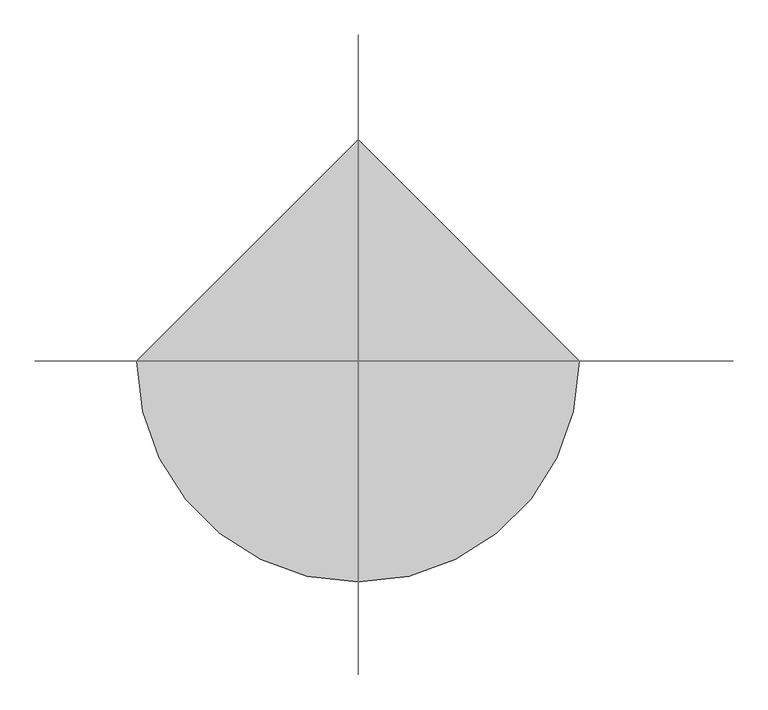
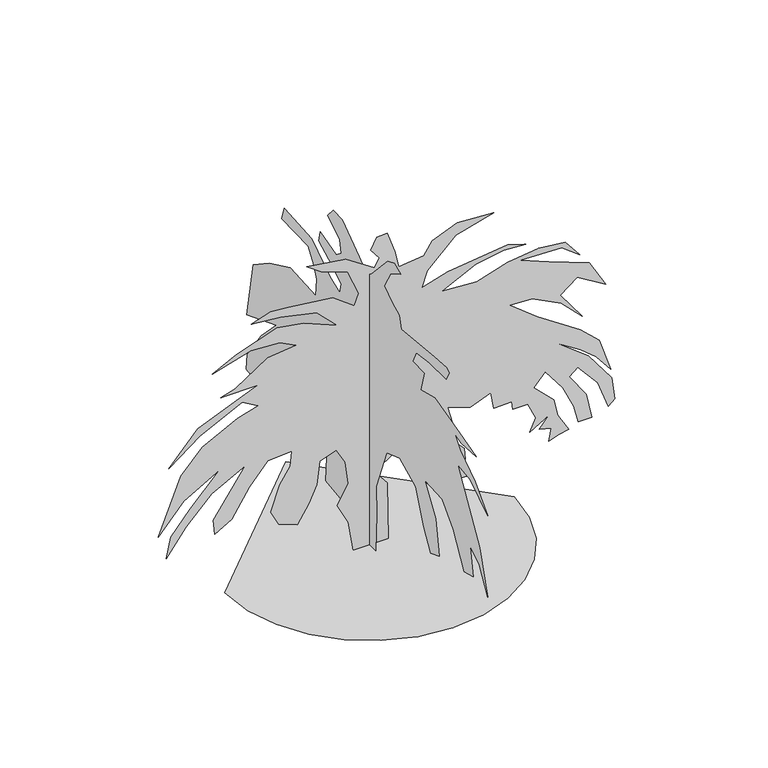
"""IFC4 building model written with IfcOpenShell, lengths in millimetres: geographic element geometry, RPC Plante - Tropical : Fougère japonaise - 0.8 mètres."""

import ifcopenshell
import ifcopenshell.guid

model = None  # the IFC model being written
_history = None  # IfcOwnerHistory: only IFC2X3 demands one
_inside = {}  # id of a spatial element -> (the spatial element, [elements in it])
_under = {}  # id of a project, library or spatial element -> (it, [spatial elements below it])
_declared = {}  # id of a project -> (the project, [libraries it declares])
_typed = {}  # id of a type object -> (the type object, [elements of that type])
_made_of = {}  # id of a material, layer set ... -> (it, [elements and type objects made of it])


def new_model(schema):
    """Start an empty IFC model of exactly this schema.

    Asked for "IFC4X3", IfcOpenShell would pick the latest addendum, in which some entities
    have other attributes; the version numbers below select the first issue.
    IFC2X3 requires an IfcOwnerHistory on every rooted entity: one is made here for all.
    """
    global model, _history
    if schema == "IFC4X3":
        model = ifcopenshell.file(schema_version=(4, 3, 0, 0))
    else:
        model = ifcopenshell.file(schema=schema)
    _inside.clear()
    _under.clear()
    _declared.clear()
    _typed.clear()
    _made_of.clear()
    _history = None
    if model.schema == "IFC2X3":
        org = make("IfcOrganization", Name="unknown")
        user = make(
            "IfcPersonAndOrganization",
            ThePerson=make("IfcPerson", FamilyName="unknown"),
            TheOrganization=org,
        )
        app = make(
            "IfcApplication",
            ApplicationDeveloper=org,
            Version="unknown",
            ApplicationFullName="unknown",
            ApplicationIdentifier="unknown",
        )
        _history = make(
            "IfcOwnerHistory",
            OwningUser=user,
            OwningApplication=app,
            ChangeAction="ADDED",
            CreationDate=0,
        )
    return model


def make(cls, **values):
    """One entity of the class cls with the attributes given. An attribute that is None is left unset."""
    return model.create_entity(
        cls, **{name: value for name, value in values.items() if value is not None}
    )


def rooted(cls, **values):
    """An entity with a GlobalId (a new one), such as an element, a storey or a relation."""
    return make(cls, GlobalId=ifcopenshell.guid.new(), OwnerHistory=_history, **values)


def si_unit(unit_type, name, prefix=None):
    """IfcSIUnit, for example si_unit("LENGTHUNIT", "METRE", prefix="MILLI")."""
    return make("IfcSIUnit", UnitType=unit_type, Prefix=prefix, Name=name)


def assignment(units):
    """IfcUnitAssignment: the units of a project."""
    return None if units is None else make("IfcUnitAssignment", Units=units)


def point(xyz):
    """IfcCartesianPoint."""
    return None if xyz is None else make("IfcCartesianPoint", Coordinates=xyz)


def direction(xyz):
    """IfcDirection."""
    return None if xyz is None else make("IfcDirection", DirectionRatios=xyz)


def frame(location, z_axis=None, x_axis=None):
    """IfcAxis2Placement3D, a coordinate frame: its origin and axes. An axis left out is left unset."""
    return make(
        "IfcAxis2Placement3D",
        Location=point(location),
        Axis=direction(z_axis),
        RefDirection=direction(x_axis),
    )


def origin():
    """The frame at (0, 0, 0) with its axes left unset."""
    return frame((0.0, 0.0, 0.0))


def place(relative_to, where):
    """IfcLocalPlacement: puts the frame where relative to a parent placement (None: the world)."""
    return make(
        "IfcLocalPlacement", PlacementRelTo=relative_to, RelativePlacement=where
    )


def context(
    kind, dimensions, precision=None, world=None, true_north=None, identifier=None
):
    """IfcGeometricRepresentationContext, for example the 3D "Model" context."""
    return make(
        "IfcGeometricRepresentationContext",
        ContextIdentifier=identifier,
        ContextType=kind,
        CoordinateSpaceDimension=dimensions,
        Precision=precision,
        WorldCoordinateSystem=world,
        TrueNorth=true_north,
    )


def project(units=None, contexts=None):
    """IfcProject with its units and contexts."""
    return rooted(
        "IfcProject",
        Name="project",
        RepresentationContexts=contexts,
        UnitsInContext=assignment(units),
    )


def spatial(cls, under=None, at=None, **own):
    """A site, building, storey or space (cls), placed at a placement, below another one or the project."""
    s = rooted(cls, ObjectPlacement=at, **own)
    if under is not None:
        _under.setdefault(under.id(), (under, []))[1].append(s)
    return s


def point_list(points):
    """IfcCartesianPointList2D or 3D."""
    cls = (
        "IfcCartesianPointList2D" if len(points[0]) == 2 else "IfcCartesianPointList3D"
    )
    return make(cls, CoordList=points)


def triangles(points, corners, closed=None, point_numbers=None):
    """IfcTriangulatedFaceSet: each triangle names its three corners, points numbered from 1."""
    return make(
        "IfcTriangulatedFaceSet",
        Coordinates=point_list(points),
        Closed=closed,
        CoordIndex=corners,
        PnIndex=point_numbers,
    )


def shape(context_of_items, identifier, shape_type, items):
    """IfcShapeRepresentation: the items that make up one representation, for example the "Body"."""
    return make(
        "IfcShapeRepresentation",
        ContextOfItems=context_of_items,
        RepresentationIdentifier=identifier,
        RepresentationType=shape_type,
        Items=items,
    )


def source(mapping_origin, context_of_items, identifier, shape_type, items):
    """IfcRepresentationMap: a shape defined once, which mapped items show again and again."""
    return make(
        "IfcRepresentationMap",
        MappingOrigin=mapping_origin,
        MappedRepresentation=shape(context_of_items, identifier, shape_type, items),
    )


def transform(
    local_origin,
    x_axis=None,
    y_axis=None,
    z_axis=None,
    scale=None,
    scale2=None,
    scale3=None,
    uniform=True,
):
    """IfcCartesianTransformationOperator3D, or its non-uniform kind. x_axis, y_axis, z_axis: its Axis1, 2, 3."""
    if uniform:
        return make(
            "IfcCartesianTransformationOperator3D",
            Axis1=direction(x_axis),
            Axis2=direction(y_axis),
            LocalOrigin=point(local_origin),
            Scale=scale,
            Axis3=direction(z_axis),
        )
    return make(
        "IfcCartesianTransformationOperator3DnonUniform",
        Axis1=direction(x_axis),
        Axis2=direction(y_axis),
        LocalOrigin=point(local_origin),
        Scale=scale,
        Axis3=direction(z_axis),
        Scale2=scale2,
        Scale3=scale3,
    )


def mapped(mapping_source, mapping_target):
    """IfcMappedItem: shows the shape of a source again, moved by a transform."""
    return make(
        "IfcMappedItem", MappingSource=mapping_source, MappingTarget=mapping_target
    )


def made_of(thing, what):
    """Note that an element or type object is made of a material, layer set ...; save() writes the relation."""
    if what is not None:
        _made_of.setdefault(what.id(), (what, []))[1].append(thing)
    return thing


def element(
    cls,
    number,
    at=None,
    inside=None,
    cuts=None,
    type_object=None,
    material=None,
    context=None,
    identifier="Body",
    shape_type=None,
    held_by="IfcProductDefinitionShape",
    body=None,
    shapes=None,
    **own,
):
    """One element of the class cls, such as IfcWall. Its Tag is "e" and its number.

    at: its placement. inside: the storey or other place that contains it. cuts: it is an
    opening in that element (IfcRelVoidsElement). A single representation is given by context,
    identifier, shape_type and body (its items); several are given by shapes. held_by: the class
    of the entity that holds the representations. save() writes the other relations.
    """
    e = rooted(cls, Tag="e%d" % number, ObjectPlacement=at, **own)
    if body is not None:
        shapes = [shape(context, identifier, shape_type, body)]
    if shapes is not None:
        e.Representation = make(held_by, Representations=shapes)
    if inside is not None:
        _inside.setdefault(inside.id(), (inside, []))[1].append(e)
    if cuts is not None:
        rooted(
            "IfcRelVoidsElement", RelatingBuildingElement=cuts, RelatedOpeningElement=e
        )
    if type_object is not None:
        _typed.setdefault(type_object.id(), (type_object, []))[1].append(e)
    return made_of(e, material)


def aggregate(whole, parts):
    """IfcRelAggregates: a whole, such as a stair, and the parts it consists of."""
    return rooted("IfcRelAggregates", RelatingObject=whole, RelatedObjects=parts)


def save(model, path):
    """Write the relations noted so far, then the file.

    IfcRelAggregates (storeys below a building ...), IfcRelContainedInSpatialStructure (elements
    in a storey), IfcRelDefinesByType, IfcRelAssociatesMaterial and IfcRelDeclares: one each for
    every whole, place, type object, material and project.
    """
    for whole, parts in _under.values():
        aggregate(whole, parts)
    for where, things in _inside.values():
        rooted(
            "IfcRelContainedInSpatialStructure",
            RelatedElements=things,
            RelatingStructure=where,
        )
    for kind, things in _typed.values():
        rooted("IfcRelDefinesByType", RelatedObjects=things, RelatingType=kind)
    for what, things in _made_of.values():
        rooted("IfcRelAssociatesMaterial", RelatedObjects=things, RelatingMaterial=what)
    for by, libraries in _declared.values():
        rooted("IfcRelDeclares", RelatingContext=by, RelatedDefinitions=libraries)
    model.write(path)


def geographic_element_89f61e38(model_context):
    return source(origin(), model_context, "Body", "Tessellation", [
        triangles([(-356.9816259, 0.0, 2.46e-05), (-347.538961, -81.8417886, 2.46e-05), (-320.6483422, -157.0003733, 2.46e-05), (-278.4590569, -223.3224515, 2.46e-05), (-223.1257884, -278.6557201, 2.46e-05), (-156.8037101, -320.8450235, 2.46e-05), (-81.6451164, -347.7356423, 2.46e-05), (0.1966867, -357.1783072, 2.46e-05), (82.0384609, -347.7356423, 2.46e-05), (157.1970364, -320.8450235, 2.46e-05), (223.5191146, -278.6557201, 2.46e-05), (278.8523832, -223.3224515, 2.46e-05), (321.0417048, -157.0003733, 2.46e-05), (347.9323236, -81.8417886, 2.46e-05), (357.3749886, 3.12e-05, 2.46e-05), (0.1966242, 357.1783072, 2.46e-05), (-39.591288, 2.4e-05, 3.8e-06), (-52.3886082, 2.53e-05, 77.2092589), (-79.4701856, 2.33e-05, 129.9044073), (-51.8286088, 1.92e-05, 179.0246285), (-59.6237998, 1.61e-05, 237.2005651), (-81.0099172, 1.47e-05, 275.3224025), (-121.8640096, 1.74e-05, 260.7322683), (-129.4650627, 2.12e-05, 202.3781994), (-150.0026445, 2.47e-05, 159.3985009), (-177.3082362, 2.85e-05, 114.8257492), (-224.1652416, 2.95e-05, 132.5502668), (-243.9444304, 2.81e-05, 171.1790318), (-221.0799103, 2.33e-05, 234.4691003), (-195.0511394, 1.98e-05, 273.6130591), (-191.2119478, 1.74e-05, 311.3276902), (-250.2614867, 2.02e-05, 307.4210246), (-296.6350369, 2.54e-05, 254.2280142), (-339.5123071, 3.14e-05, 185.9592888), (-381.4722822, 3.47e-05, 161.1515734), (-385.2696158, 3.25e-05, 199.7619347), (-305.7070304, 2.23e-05, 313.25835), (-389.2322737, 2.86e-05, 269.5890678), (-451.6135314, 3.51e-05, 205.2877965), (-501.5068159, 4.12e-05, 139.8979924), (-490.5788492, 3.76e-05, 191.9816683), (-441.6242065, 3.21e-05, 249.0544201), (-368.8616057, 2.43e-05, 325.6103577), (-458.3148665, 3.13e-05, 274.3943886), (-521.6481374, 3.83e-05, 202.3696607), (-465.4295122, 2.75e-05, 342.7516442), (-412.306919, 2.18e-05, 399.0182679), (-325.1523188, 1.53e-05, 444.1942168), (-273.6057376, 1.22e-05, 459.1648873), (-314.0723265, 1.26e-05, 482.4155394), (-418.6162359, 2.03e-05, 430.012924), (-495.2054927, 2.71e-05, 372.3782879), (-423.1042251, 1.92e-05, 451.5675676), (-315.4003341, 1.18e-05, 496.7035117), (-275.4804052, 9.1e-06, 512.7808371), (-366.2136206, 1.31e-05, 512.5835017), (-331.2056557, 1.09e-05, 523.2341598), (-250.2614867, 4.2e-06, 575.8901027), (-180.8079499, 7e-07, 584.7194329), (-221.0799103, 1.2e-06, 605.0713883), (-292.4937199, 4.1e-06, 609.4207232), (-387.4135983, 9.9e-06, 581.7274281), (-328.4856545, 5.5e-06, 612.0154049), (-227.295374, -1e-06, 646.7967121), (-161.5869029, -3.2e-06, 635.7193359), (-78.621382, -4.8e-06, 600.674055), (-129.4533356, -5.6e-06, 651.5887161), (-219.3260566, -2.8e-06, 670.7326784), (-291.1150432, -1e-07, 678.0232944), (-243.6241556, -3.1e-06, 694.5326792), (-199.2876722, -4.8e-06, 690.5139565), (-89.7989701, -8.8e-06, 676.7513517), (-37.2379591, -8.7e-06, 637.1700468), (-25.5654385, -1.1e-05, 666.3513325), (-53.2067405, -1.36e-05, 730.9165775), (-118.8594782, -1.21e-05, 754.0578976), (-153.9631858, -1.22e-05, 780.1592113), (-58.1566019, -1.55e-05, 766.6525503), (12.3701786, -1.58e-05, 718.8793036), (24.5030987, -1.76e-05, 741.3032982), (3.6158409, -1.84e-05, 768.4872494), (18.7047597, -2.07e-05, 796.1618683), (43.7640938, -2.19e-05, 798.4898512), (62.816342, -1.95e-05, 744.3539114), (72.129132, -1.74e-05, 701.4126371), (134.0245409, -2.04e-05, 707.8552671), (155.3583768, -2.33e-05, 739.3059637), (216.6393747, -2.75e-05, 765.5672241), (307.1003683, -3.11e-05, 759.7325512), (213.1465828, -2.54e-05, 733.5272467), (143.1669335, -1.83e-05, 665.9780268), (130.1258781, -1.53e-05, 625.1620588), (193.29407, -1.93e-05, 645.9246723), (342.1190157, -2.69e-05, 663.433996), (386.0096143, -2.8e-05, 650.2686659), (331.6310294, -2.58e-05, 653.215361), (262.3572055, -2.2e-05, 640.2313425), (179.4618111, -1.6e-05, 599.1567421), (265.035058, -1.94e-05, 594.3860667), (342.0896934, -2.42e-05, 617.5967503), (417.9909471, -2.81e-05, 628.4153486), (483.3268573, -3.05e-05, 620.5620489), (520.1241752, -2.95e-05, 575.8901027), (475.7348788, -2.95e-05, 609.4687217), (372.9456588, -2.52e-05, 612.3860945), (441.3349073, -2.65e-05, 584.6447645), (542.8041498, -2.87e-05, 546.4048021), (584.2227699, -2.63e-05, 476.0742113), (513.9028253, -2.58e-05, 519.0714778), (472.0308898, -2.2e-05, 486.8048427), (525.9615005, -2e-05, 412.4742416), (473.4335295, -2.08e-05, 465.0022127), (402.3962957, -1.99e-05, 501.5674953), (346.6470097, -1.76e-05, 504.9195073), (415.0709218, -1.74e-05, 450.4102255), (520.5801793, -1.78e-05, 379.9196154), (568.2414416, -1.72e-05, 335.1356847), (596.0814211, -1.33e-05, 249.2213612), (560.7561427, -1.45e-05, 294.909034), (522.6121774, -1.47e-05, 326.2076686), (462.342891, -1.43e-05, 363.9543108), (540.550799, -1.42e-05, 304.5037063), (599.2467439, -1.21e-05, 226.7565805), (605.6067481, -9e-06, 169.6256927), (590.1587448, -7.5e-06, 155.6795782), (563.8974481, -1.05e-05, 225.714711), (514.2895022, -1.18e-05, 284.0770462), (493.1588516, -9.9e-06, 266.7677284), (536.2361641, -8.1e-06, 205.2771322), (549.3054608, -4.8e-06, 141.0889262), (516.425491, -3.3e-06, 140.2646579), (505.3241701, -5.5e-06, 185.108614), (477.6415575, -7.8e-06, 243.2032329), (434.3535748, -9.2e-06, 299.3437015), (405.9722766, -6.1e-06, 268.3197412), (455.9268946, -5.4e-06, 219.8784575), (465.4788915, -3.2e-06, 174.9152863), (492.2202098, -1.7e-06, 130.1460077), (468.8415496, -3e-07, 124.1884135), (442.7215596, 1.3e-06, 116.1070845), (449.5455617, -8e-07, 146.8782531), (419.662938, 0.0, 155.0435705), (444.2522438, -2.8e-06, 184.860882), (396.2229444, 1e-06, 156.0027779), (410.9322573, -1.6e-06, 188.0872839), (391.7616251, -3.2e-06, 229.804832), (353.6443296, -1.6e-06, 230.0109786), (351.7750033, -2.7e-06, 250.1848198), (307.1003683, -7e-07, 249.0597613), (300.2817075, -2.9e-06, 291.6023862), (248.7385418, 5e-07, 272.405066), (193.29407, 1.9e-06, 289.9143715), (210.8028487, 4.9e-06, 225.714711), (209.5596469, 6.7e-06, 196.5163297), (234.147899, 7.2e-06, 170.2702392), (237.0660348, 8.8e-06, 141.0889262), (219.1519212, 1.04e-05, 127.6382756), (249.9017521, 1.1e-05, 94.9585752), (191.3132679, 1.34e-05, 97.4711035), (201.263133, 1.05e-05, 139.9955973), (173.9058276, 1.05e-05, 159.8089046), (182.4415529, 8.6e-06, 185.1459482), (114.684288, 1.2e-05, 178.0643492), (99.9141775, 1.12e-05, 202.3696607), (152.4405135, 7.1e-06, 231.5509645), (87.6747175, 9.8e-06, 234.8944377), (12.4554318, 1.6e-05, 186.0566121), (44.4696966, 1.69e-05, 146.9251888), (47.3878233, 1.91e-05, 0.0), (0.1988968, 28.0250381, 3.7e-06), (0.1989024, 23.3153101, 131.4809371), (0.1989043, 63.1703357, 135.2526637), (0.1989031, 125.3580096, 45.104755), (0.1989061, 186.8720783, 53.6724779), (0.1989088, 182.1083611, 118.7774792), (0.1989112, 144.4259864, 212.5160617), (0.1989072, 143.3849253, 265.1541278), (0.1989091, 175.7563505, 275.9837175), (0.1989147, 237.6858916, 199.7619347), (0.198915, 302.7357001, 140.1214617), (0.1989165, 331.3730146, 147.3601187), (0.1989186, 325.3463476, 199.5424713), (0.1989213, 363.9222997, 223.1101825), (0.1989223, 429.8262348, 180.7067569), (0.1989222, 475.8741872, 131.4809371), (0.1989247, 526.6901261, 139.4206596), (0.1989263, 521.9248283, 180.7067569), (0.1989212, 463.1728912, 264.866936), (0.1989213, 397.7889462, 332.7090159), (0.1989246, 523.5141572, 283.9223863), (0.1989299, 495.7835097, 430.9862294), (0.1989289, 428.236906, 476.0608764), (0.1989268, 339.3143177, 517.3488358), (0.1989217, 228.4952462, 512.2821756), (0.1989235, 224.9824519, 557.0447777), (0.1989254, 238.2328241, 586.9834299), (0.198928, 261.7722666, 621.3780602), (0.198933, 375.8342906, 623.7380178), (0.198934, 364.7196347, 657.0846743), (0.1989285, 247.1213622, 649.612674), (0.1989229, 169.3534347, 598.4660866), (0.1989203, 125.6708085, 581.7007582), (0.1989213, 121.2033486, 608.4554114), (0.1989249, 174.1686204, 639.6180079), (0.1989278, 217.0427113, 661.8500084), (0.1989224, 209.1029888, 690.4313307), (0.1989186, 140.9505263, 671.9353666), (0.1989184, 120.1790834, 688.8446543), (0.1989201, 126.4332074, 719.3166315), (0.1989238, 178.9323558, 752.3619255), (0.1989239, 155.1134427, 779.3565714), (0.1989222, 117.0030872, 777.7672062), (0.1989167, 43.7690217, 725.5806387), (0.1989142, 11.282335, 699.1806513), (0.1989139, -10.6222293, 714.4366241), (0.1989141, -78.3121894, 787.2951857), (0.1989134, -106.8948288, 799.9992067), (0.1989117, -133.8897381, 787.2951857), (0.1989124, -91.4905729, 762.6498877), (0.1989115, -63.82447, 714.9192982), (0.198909, -97.1412363, 690.3886734), (0.1989071, -127.8788042, 676.3806622), (0.1989116, -136.2243976, 645.8900087), (0.1988998, -278.3917282, 660.2606432), (0.1988976, -330.7943436, 663.4366848), (0.1988968, -341.9089994, 655.4979979), (0.1989026, -329.2050147, 631.6793936), (0.1989057, -255.7989394, 630.9247158), (0.1989078, -201.4115251, 623.4394169), (0.1989071, -185.4035451, 591.3727332), (0.1989049, -234.4786928, 590.4820899), (0.1989033, -219.4389858, 537.8608106), (0.1989013, -279.9783864, 553.8714612), (0.1988956, -384.8262926, 526.9594774), (0.1988915, -456.2395572, 506.2314912), (0.1988942, -394.0155936, 503.9995053), (0.1988957, -365.7943148, 511.6901696), (0.1988935, -388.4636069, 482.6261733), (0.1988888, -452.284893, 439.6635704), (0.198884, -507.0528437, 383.9622828), (0.1988894, -430.8768974, 431.8128868), (0.198892, -378.3489627, 438.6928811), (0.1988872, -418.3222495, 368.7036212), (0.1988809, -472.1195472, 279.1570521), (0.1988809, -505.8634904, 170.2702392), (0.198879, -470.530182, 233.1083004), (0.1988817, -430.9435721, 256.6434736), (0.1988781, -444.5382365, 186.5443548), (0.1988855, -406.6475987, 176.1064927), (0.198885, -359.3756295, 258.5152162), (0.1988892, -311.2476806, 308.3676965), (0.1988927, -237.3971011, 313.25835), (0.1988874, -284.7437206, 241.0480229), (0.1988892, -298.5170441, 151.7734485), (0.1988901, -261.8053315, 136.5182659), (0.1988937, -232.8570984, 188.3064747), (0.1988926, -197.5672648, 272.0370652), (0.198897, -130.1718691, 304.5676922), (0.1988986, -73.5660583, 284.6663815), (0.1989018, -28.8695723, 170.457437), (0.1988986, -31.953834, 99.3204365), (0.1988944, -26.9829074, 2.55e-05)], [[15, 16, 1], [14, 15, 1], [14, 1, 2], [13, 14, 2], [13, 2, 3], [13, 3, 4], [12, 13, 4], [11, 12, 4], [11, 4, 5], [11, 5, 6], [11, 6, 7], [11, 7, 8], [11, 8, 9], [11, 9, 10], [110, 111, 112], [51, 52, 53], [61, 62, 63], [102, 103, 104], [94, 95, 96], [55, 56, 57], [88, 89, 90], [44, 45, 46], [117, 118, 119], [61, 63, 64], [68, 69, 70], [39, 40, 41], [107, 108, 109], [76, 77, 78], [39, 41, 42], [75, 76, 78], [38, 39, 42], [38, 42, 43], [60, 61, 64], [143, 144, 145], [93, 94, 96], [93, 96, 97], [93, 97, 98], [68, 70, 71], [37, 38, 43], [55, 57, 58], [157, 158, 159], [157, 159, 160], [75, 78, 79], [92, 93, 98], [74, 75, 79], [67, 68, 71], [67, 71, 72], [110, 112, 113], [139, 140, 141], [87, 88, 90], [87, 90, 91], [86, 87, 91], [117, 119, 120], [116, 117, 120], [116, 120, 121], [115, 116, 121], [101, 102, 104], [101, 104, 105], [100, 101, 105], [106, 107, 109], [34, 35, 36], [141, 142, 143], [43, 44, 46], [43, 46, 47], [124, 125, 126], [123, 124, 126], [122, 123, 126], [122, 126, 127], [34, 36, 37], [33, 34, 37], [32, 33, 37], [60, 64, 65], [59, 60, 65], [137, 138, 139], [137, 139, 141], [137, 141, 143], [136, 137, 143], [121, 122, 127], [50, 51, 53], [50, 53, 54], [66, 67, 72], [66, 72, 73], [106, 109, 110], [106, 110, 113], [129, 130, 131], [129, 131, 132], [129, 132, 133], [128, 129, 133], [128, 133, 134], [43, 47, 48], [37, 43, 48], [105, 106, 113], [105, 113, 114], [100, 105, 114], [99, 100, 114], [59, 65, 66], [163, 164, 165], [162, 163, 165], [168, 169, 17], [168, 17, 18], [168, 18, 19], [168, 19, 20], [167, 168, 20], [167, 20, 21], [146, 147, 148], [121, 127, 128], [121, 128, 134], [85, 86, 91], [148, 149, 150], [37, 48, 49], [32, 37, 49], [31, 32, 49], [85, 91, 92], [25, 26, 27], [25, 27, 28], [25, 28, 29], [24, 25, 29], [24, 29, 30], [23, 24, 30], [23, 30, 31], [136, 143, 145], [135, 136, 145], [135, 145, 146], [135, 146, 148], [82, 83, 84], [81, 82, 84], [80, 81, 84], [80, 84, 85], [79, 80, 85], [50, 54, 55], [49, 50, 55], [160, 161, 162], [156, 157, 160], [155, 156, 160], [155, 160, 162], [154, 155, 162], [154, 162, 165], [153, 154, 165], [152, 153, 165], [74, 79, 85], [74, 85, 92], [73, 74, 92], [166, 167, 21], [55, 58, 59], [166, 21, 22], [152, 165, 166], [135, 148, 150], [134, 135, 150], [121, 134, 150], [115, 121, 150], [114, 115, 150], [114, 150, 151], [114, 151, 152], [99, 114, 152], [98, 99, 152], [98, 152, 166], [98, 166, 22], [92, 98, 22], [73, 92, 22], [66, 73, 22], [59, 66, 22], [55, 59, 22], [49, 55, 22], [31, 49, 22], [23, 31, 22], [244, 245, 246], [239, 240, 241], [234, 235, 236], [234, 236, 237], [233, 234, 237], [238, 239, 241], [238, 241, 242], [217, 218, 219], [216, 217, 219], [189, 190, 191], [244, 246, 247], [215, 216, 219], [215, 219, 220], [197, 198, 199], [197, 199, 200], [230, 231, 232], [189, 191, 192], [209, 210, 211], [209, 211, 212], [209, 212, 213], [208, 209, 213], [197, 200, 201], [196, 197, 201], [195, 196, 201], [243, 244, 247], [262, 170, 171], [261, 262, 171], [260, 261, 171], [205, 206, 207], [204, 205, 207], [203, 204, 207], [185, 186, 187], [184, 185, 187], [184, 187, 188], [183, 184, 188], [183, 188, 189], [173, 174, 175], [172, 173, 175], [172, 175, 176], [247, 248, 249], [247, 249, 250], [243, 247, 250], [243, 250, 251], [242, 243, 251], [254, 255, 256], [253, 254, 256], [253, 256, 257], [252, 253, 257], [225, 226, 227], [224, 225, 227], [224, 227, 228], [223, 224, 228], [223, 228, 229], [223, 229, 230], [180, 181, 182], [179, 180, 182], [189, 192, 193], [189, 193, 194], [252, 257, 258], [203, 207, 208], [242, 251, 252], [208, 213, 214], [203, 208, 214], [183, 189, 194], [182, 183, 194], [179, 182, 194], [178, 179, 194], [177, 178, 194], [195, 201, 202], [194, 195, 202], [177, 194, 202], [237, 238, 242], [237, 242, 252], [233, 237, 252], [232, 233, 252], [232, 252, 258], [230, 232, 258], [230, 258, 259], [223, 230, 259], [221, 222, 223], [221, 223, 259], [220, 221, 259], [215, 220, 259], [214, 215, 259], [203, 214, 259], [202, 203, 259], [177, 202, 259], [177, 259, 260], [176, 177, 260], [172, 176, 260], [172, 260, 171]], closed=False),
    ])


if __name__ == "__main__":
    model = new_model("IFC4")
    model_context = context("Model", 3, world=origin())
    ifc_project = project(units=[si_unit("LENGTHUNIT", "METRE", prefix="MILLI")], contexts=[model_context])
    site = spatial("IfcSite", under=ifc_project)
    building = spatial("IfcBuilding", under=site)
    placement = place(None, origin())
    geographic_element_shape = geographic_element_89f61e38(model_context)
    element("IfcGeographicElement", 1, ObjectType="RPC Plante - Tropical : Fougère japonaise - 0.8 mètres", at=placement, inside=building, context=model_context, shape_type="MappedRepresentation", body=[
        mapped(geographic_element_shape, transform((0.0, 0.0, 0.0), x_axis=(1.0, 0.0, 0.0), y_axis=(0.0, 1.0, 0.0), z_axis=(0.0, 0.0, 1.0))),
    ])
    save(model, "model.ifc")
